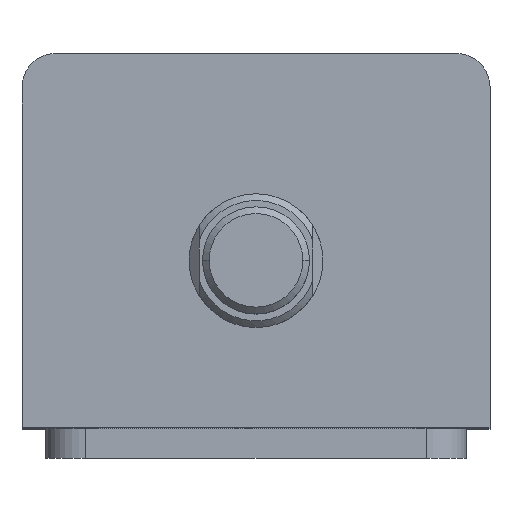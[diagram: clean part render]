
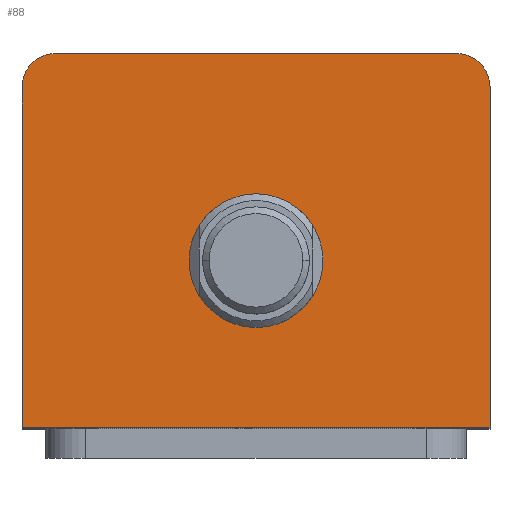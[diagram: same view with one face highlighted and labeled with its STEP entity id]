
A CAD part, top view. The second image highlights one B-rep face of the part: STEP entity #88.
In plain terms, the highlighted planar face has unit normal (0, 0, 1).
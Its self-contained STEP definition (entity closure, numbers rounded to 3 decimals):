
#88 = ADVANCED_FACE ( 'NONE', ( #2964, #2974 ), #1415, .T. ) ;
#194 = EDGE_CURVE ( 'NONE', #1692, #1639, #3020, .T. ) ;
#200 = EDGE_CURVE ( 'NONE', #1639, #1682, #3030, .T. ) ;
#225 = EDGE_CURVE ( 'NONE', #1746, #1729, #3067, .T. ) ;
#252 = EDGE_CURVE ( 'NONE', #1729, #1746, #3110, .T. ) ;
#279 = EDGE_CURVE ( 'NONE', #1682, #1709, #3148, .T. ) ;
#302 = EDGE_CURVE ( 'NONE', #1709, #1735, #2661, .T. ) ;
#366 = EDGE_CURVE ( 'NONE', #1653, #1692, #2756, .T. ) ;
#400 = EDGE_CURVE ( 'NONE', #1735, #1653, #2798, .T. ) ;
#446 = CARTESIAN_POINT ( 'NONE',  ( -30., 28., 94. ) ) ;
#457 = CARTESIAN_POINT ( 'NONE',  ( -35., -28., 94. ) ) ;
#511 = CARTESIAN_POINT ( 'NONE',  ( 30., 28., 94. ) ) ;
#545 = CARTESIAN_POINT ( 'NONE',  ( -35., 23., 94. ) ) ;
#684 = DIRECTION ( 'NONE',  ( 0., 0., 1. ) ) ;
#692 = CARTESIAN_POINT ( 'NONE',  ( 10., -3., 94. ) ) ;
#702 = DIRECTION ( 'NONE',  ( 1., 0., 0. ) ) ;
#704 = CARTESIAN_POINT ( 'NONE',  ( 30., 23., 94. ) ) ;
#708 = CARTESIAN_POINT ( 'NONE',  ( 35., 23., 94. ) ) ;
#715 = CARTESIAN_POINT ( 'NONE',  ( -10., -3., 94. ) ) ;
#741 = CARTESIAN_POINT ( 'NONE',  ( 35., -28., 94. ) ) ;
#775 = ORIENTED_EDGE ( 'NONE', *, *, #279, .T. ) ;
#776 = ORIENTED_EDGE ( 'NONE', *, *, #200, .T. ) ;
#777 = ORIENTED_EDGE ( 'NONE', *, *, #194, .T. ) ;
#778 = ORIENTED_EDGE ( 'NONE', *, *, #366, .T. ) ;
#779 = ORIENTED_EDGE ( 'NONE', *, *, #400, .T. ) ;
#780 = ORIENTED_EDGE ( 'NONE', *, *, #302, .T. ) ;
#781 = ORIENTED_EDGE ( 'NONE', *, *, #252, .F. ) ;
#782 = ORIENTED_EDGE ( 'NONE', *, *, #225, .F. ) ;
#1088 = DIRECTION ( 'NONE',  ( 1., 0., 0. ) ) ;
#1099 = DIRECTION ( 'NONE',  ( 1., 0., 0. ) ) ;
#1100 = DIRECTION ( 'NONE',  ( 0., 0., 1. ) ) ;
#1102 = CARTESIAN_POINT ( 'NONE',  ( 0., -3., 94. ) ) ;
#1157 = CARTESIAN_POINT ( 'NONE',  ( -30., 23., 94. ) ) ;
#1256 = CARTESIAN_POINT ( 'NONE',  ( -35., 28., 94. ) ) ;
#1280 = DIRECTION ( 'NONE',  ( 1., 0., 0. ) ) ;
#1281 = DIRECTION ( 'NONE',  ( 0., 0., 1. ) ) ;
#1287 = DIRECTION ( 'NONE',  ( 1., 0., 0. ) ) ;
#1289 = CARTESIAN_POINT ( 'NONE',  ( 0., -3., 94. ) ) ;
#1290 = DIRECTION ( 'NONE',  ( 0., 0., 1. ) ) ;
#1323 = DIRECTION ( 'NONE',  ( 0., -1., 0. ) ) ;
#1352 = CARTESIAN_POINT ( 'NONE',  ( 0., 0., 94. ) ) ;
#1364 = DIRECTION ( 'NONE',  ( 0., 0., 1. ) ) ;
#1415 = PLANE ( 'NONE',  #2591 ) ;
#1639 = VERTEX_POINT ( 'NONE', #545 ) ;
#1653 = VERTEX_POINT ( 'NONE', #511 ) ;
#1682 = VERTEX_POINT ( 'NONE', #457 ) ;
#1692 = VERTEX_POINT ( 'NONE', #446 ) ;
#1709 = VERTEX_POINT ( 'NONE', #741 ) ;
#1729 = VERTEX_POINT ( 'NONE', #715 ) ;
#1735 = VERTEX_POINT ( 'NONE', #708 ) ;
#1746 = VERTEX_POINT ( 'NONE', #692 ) ;
#1784 = EDGE_LOOP ( 'NONE', ( #782, #781 ) ) ;
#1842 = EDGE_LOOP ( 'NONE', ( #780, #779, #778, #777, #776, #775 ) ) ;
#1913 = AXIS2_PLACEMENT_3D ( 'NONE', #704, #684, #702 ) ;
#2233 = DIRECTION ( 'NONE',  ( -1., 0., 0. ) ) ;
#2234 = CARTESIAN_POINT ( 'NONE',  ( -35., 28., 94. ) ) ;
#2249 = DIRECTION ( 'NONE',  ( 1., 0., 0. ) ) ;
#2283 = CARTESIAN_POINT ( 'NONE',  ( -35., -28., 94. ) ) ;
#2441 = DIRECTION ( 'NONE',  ( 0., 1., 0. ) ) ;
#2442 = CARTESIAN_POINT ( 'NONE',  ( 35., 28., 94. ) ) ;
#2540 = AXIS2_PLACEMENT_3D ( 'NONE', #1102, #1100, #1099 ) ;
#2564 = AXIS2_PLACEMENT_3D ( 'NONE', #1157, #1290, #1287 ) ;
#2591 = AXIS2_PLACEMENT_3D ( 'NONE', #1352, #1364, #1088 ) ;
#2607 = AXIS2_PLACEMENT_3D ( 'NONE', #1289, #1281, #1280 ) ;
#2661 = LINE ( 'NONE', #2442, #2664 ) ;
#2664 = VECTOR ( 'NONE', #2441, 1000. ) ;
#2756 = LINE ( 'NONE', #2234, #2759 ) ;
#2759 = VECTOR ( 'NONE', #2233, 1000. ) ;
#2798 = CIRCLE ( 'NONE', #1913, 5. ) ;
#2964 = FACE_BOUND ( 'NONE', #1784, .T. ) ;
#2974 = FACE_OUTER_BOUND ( 'NONE', #1842, .T. ) ;
#3020 = CIRCLE ( 'NONE', #2564, 5. ) ;
#3030 = LINE ( 'NONE', #1256, #3032 ) ;
#3032 = VECTOR ( 'NONE', #1323, 1000. ) ;
#3067 = CIRCLE ( 'NONE', #2607, 10. ) ;
#3110 = CIRCLE ( 'NONE', #2540, 10. ) ;
#3148 = LINE ( 'NONE', #2283, #3155 ) ;
#3155 = VECTOR ( 'NONE', #2249, 1000. ) ;
